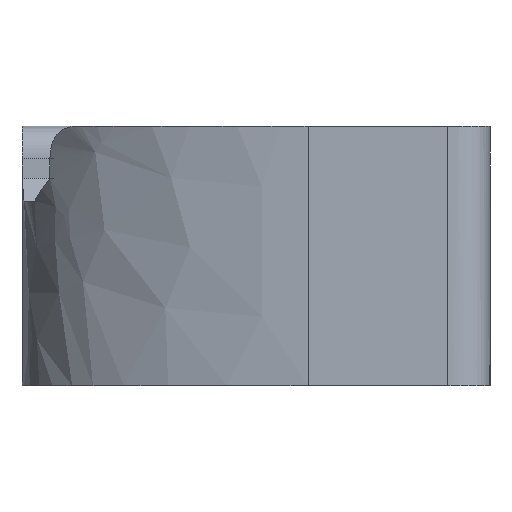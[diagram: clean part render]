
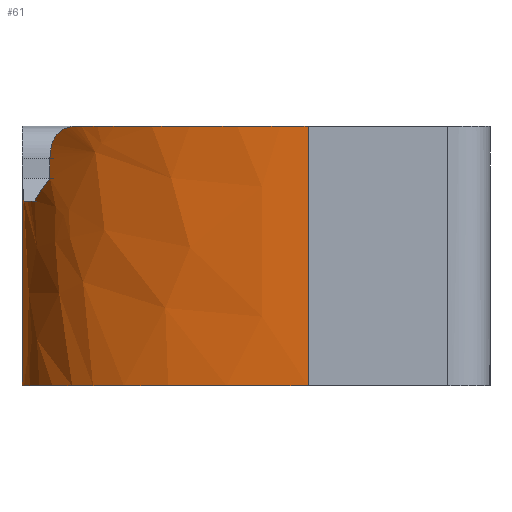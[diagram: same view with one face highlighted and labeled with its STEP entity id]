
A CAD part, left-side view. The second image highlights one B-rep face of the part: STEP entity #61.
In plain terms, the highlighted free-form (B-spline) face has degree [3, 1] with [4, 2] control points.
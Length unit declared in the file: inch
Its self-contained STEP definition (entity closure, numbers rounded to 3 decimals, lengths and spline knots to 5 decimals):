
#61=ADVANCED_FACE('',(#148),#149,.F.);
#148=FACE_OUTER_BOUND('',#260,.T.);
#149=B_SPLINE_SURFACE_WITH_KNOTS('',3,1,((#261,#262),(#263,#264),(#265,#266),(#267,#268)),.UNSPECIFIED.,.F.,.F.,.F.,(4,4),(2,2),(-1.0,-0.0),(0.0,0.73106),.UNSPECIFIED.);
#260=EDGE_LOOP('',(#755,#756,#757,#758,#759,#760,#761,#762,#763));
#261=CARTESIAN_POINT('',(0.17794,0.56242,0.3519));
#262=CARTESIAN_POINT('',(0.17794,0.56242,-0.37916));
#263=CARTESIAN_POINT('',(-0.02242,0.56242,0.3519));
#264=CARTESIAN_POINT('',(-0.02242,0.56242,-0.37916));
#265=CARTESIAN_POINT('',(-0.04635,0.27241,0.3519));
#266=CARTESIAN_POINT('',(-0.04635,0.27241,-0.37916));
#267=CARTESIAN_POINT('',(-0.04635,0.21857,0.3519));
#268=CARTESIAN_POINT('',(-0.04635,0.21857,-0.37916));
#755=ORIENTED_EDGE('',*,*,#1025,.F.);
#756=ORIENTED_EDGE('',*,*,#1026,.F.);
#757=ORIENTED_EDGE('',*,*,#1027,.F.);
#758=ORIENTED_EDGE('',*,*,#1028,.F.);
#759=ORIENTED_EDGE('',*,*,#1029,.F.);
#760=ORIENTED_EDGE('',*,*,#1030,.F.);
#761=ORIENTED_EDGE('',*,*,#1031,.T.);
#762=ORIENTED_EDGE('',*,*,#1032,.F.);
#763=ORIENTED_EDGE('',*,*,#1033,.F.);
#1025=EDGE_CURVE('',#1156,#1157,#1158,.T.);
#1026=EDGE_CURVE('',#1159,#1156,#1160,.T.);
#1027=EDGE_CURVE('',#1161,#1159,#1162,.T.);
#1028=EDGE_CURVE('',#1163,#1161,#1164,.T.);
#1029=EDGE_CURVE('',#1165,#1163,#1166,.T.);
#1030=EDGE_CURVE('',#1167,#1165,#1168,.T.);
#1031=EDGE_CURVE('',#1167,#1169,#1170,.T.);
#1032=EDGE_CURVE('',#1171,#1169,#1172,.T.);
#1033=EDGE_CURVE('',#1157,#1171,#1173,.T.);
#1156=VERTEX_POINT('',#1347);
#1157=VERTEX_POINT('',#1348);
#1158=B_SPLINE_CURVE_WITH_KNOTS('',3,(#1349,#1350,#1351,#1352,#1353,#1354,#1355,#1356),.UNSPECIFIED.,.F.,.F.,(4,2,2,4),(0.0,0.06653,0.15885,0.41538),.UNSPECIFIED.);
#1159=VERTEX_POINT('',#1357);
#1160=B_SPLINE_CURVE_WITH_KNOTS('',3,(#1358,#1359,#1360,#1361,#1362,#1363,#1364,#1365,#1366,#1367,#1368,#1369),.UNSPECIFIED.,.F.,.F.,(4,2,2,2,2,4),(0.0,0.01171,0.02331,0.03665,0.0504,0.07204),.UNSPECIFIED.);
#1161=VERTEX_POINT('',#1370);
#1162=B_SPLINE_CURVE_WITH_KNOTS('',3,(#1371,#1372,#1373,#1374),.UNSPECIFIED.,.F.,.F.,(4,4),(0.0,0.12322),.UNSPECIFIED.);
#1163=VERTEX_POINT('',#1375);
#1164=B_SPLINE_CURVE_WITH_KNOTS('',3,(#1376,#1377,#1378,#1379,#1380,#1381),.UNSPECIFIED.,.F.,.F.,(4,2,4),(0.0,0.08248,0.16033),.UNSPECIFIED.);
#1165=VERTEX_POINT('',#1382);
#1166=B_SPLINE_CURVE_WITH_KNOTS('',3,(#1383,#1384,#1385,#1386,#1387,#1388),.UNSPECIFIED.,.F.,.F.,(4,2,4),(0.0,0.07132,0.13771),.UNSPECIFIED.);
#1167=VERTEX_POINT('',#1389);
#1168=B_SPLINE_CURVE_WITH_KNOTS('',3,(#1390,#1391,#1392,#1393),.UNSPECIFIED.,.F.,.F.,(4,4),(0.0,0.09275),.UNSPECIFIED.);
#1169=VERTEX_POINT('',#1394);
#1170=LINE('',#1395,#1396);
#1171=VERTEX_POINT('',#1397);
#1172=B_SPLINE_CURVE_WITH_KNOTS('',3,(#1398,#1399,#1400,#1401),.UNSPECIFIED.,.F.,.F.,(4,4),(0.0,1.0),.UNSPECIFIED.);
#1173=LINE('',#1402,#1403);
#1347=CARTESIAN_POINT('',(0.03531,0.49122,0.31231));
#1348=CARTESIAN_POINT('',(-0.04635,0.21857,0.31231));
#1349=CARTESIAN_POINT('',(0.08531,0.53687,0.31231));
#1350=CARTESIAN_POINT('',(0.06648,0.52514,0.31231));
#1351=CARTESIAN_POINT('',(0.05032,0.50998,0.31231));
#1352=CARTESIAN_POINT('',(0.01722,0.46865,0.31231));
#1353=CARTESIAN_POINT('',(0.00247,0.44056,0.31231));
#1354=CARTESIAN_POINT('',(-0.04028,0.33241,0.31231));
#1355=CARTESIAN_POINT('',(-0.04635,0.24574,0.31231));
#1356=CARTESIAN_POINT('',(-0.04635,0.21857,0.31231));
#1357=CARTESIAN_POINT('',(0.07353,0.52884,0.27287));
#1358=CARTESIAN_POINT('',(0.07353,0.52884,0.27287));
#1359=CARTESIAN_POINT('',(0.07353,0.52884,0.27677));
#1360=CARTESIAN_POINT('',(0.0731,0.52853,0.28078));
#1361=CARTESIAN_POINT('',(0.07138,0.52722,0.2883));
#1362=CARTESIAN_POINT('',(0.07009,0.52624,0.29185));
#1363=CARTESIAN_POINT('',(0.06634,0.52324,0.29872));
#1364=CARTESIAN_POINT('',(0.06385,0.52118,0.30173));
#1365=CARTESIAN_POINT('',(0.05809,0.51606,0.30662));
#1366=CARTESIAN_POINT('',(0.05493,0.51309,0.30834));
#1367=CARTESIAN_POINT('',(0.04683,0.50491,0.31146));
#1368=CARTESIAN_POINT('',(0.04128,0.4988,0.31231));
#1369=CARTESIAN_POINT('',(0.03531,0.49122,0.31231));
#1370=CARTESIAN_POINT('',(0.07353,0.52884,0.24965));
#1371=CARTESIAN_POINT('',(0.07353,0.52884,0.19965));
#1372=CARTESIAN_POINT('',(0.07353,0.52884,0.24072));
#1373=CARTESIAN_POINT('',(0.07353,0.52884,0.28179));
#1374=CARTESIAN_POINT('',(0.07353,0.52884,0.32287));
#1375=CARTESIAN_POINT('',(0.10478,0.54728,0.22225));
#1376=CARTESIAN_POINT('',(0.14237,0.55914,0.18929));
#1377=CARTESIAN_POINT('',(0.12191,0.55523,0.20723));
#1378=CARTESIAN_POINT('',(0.10217,0.54767,0.22454));
#1379=CARTESIAN_POINT('',(0.06596,0.52451,0.25628));
#1380=CARTESIAN_POINT('',(0.0501,0.50983,0.27019));
#1381=CARTESIAN_POINT('',(0.03593,0.49201,0.28261));
#1382=CARTESIAN_POINT('',(0.14687,0.55994,0.22225));
#1383=CARTESIAN_POINT('',(0.17794,0.56242,0.22225));
#1384=CARTESIAN_POINT('',(0.15417,0.56242,0.22225));
#1385=CARTESIAN_POINT('',(0.13105,0.55834,0.22225));
#1386=CARTESIAN_POINT('',(0.08871,0.54064,0.22225));
#1387=CARTESIAN_POINT('',(0.07067,0.52827,0.22225));
#1388=CARTESIAN_POINT('',(0.05478,0.51287,0.22225));
#1389=CARTESIAN_POINT('',(0.17794,0.56242,0.24912));
#1390=CARTESIAN_POINT('',(0.17794,0.56242,0.24912));
#1391=CARTESIAN_POINT('',(0.15455,0.56242,0.2289));
#1392=CARTESIAN_POINT('',(0.13133,0.55847,0.20882));
#1393=CARTESIAN_POINT('',(0.10904,0.54914,0.18955));
#1394=CARTESIAN_POINT('',(0.17794,0.56242,0.0));
#1395=CARTESIAN_POINT('',(0.17794,0.56242,0.3519));
#1396=VECTOR('',#1802,1.0);
#1397=CARTESIAN_POINT('',(-0.04635,0.21857,0.0));
#1398=CARTESIAN_POINT('',(-0.04635,0.21857,0.0));
#1399=CARTESIAN_POINT('',(-0.04635,0.27241,0.0));
#1400=CARTESIAN_POINT('',(-0.02242,0.56242,0.));
#1401=CARTESIAN_POINT('',(0.17794,0.56242,0.));
#1402=CARTESIAN_POINT('',(-0.04635,0.21857,0.3519));
#1403=VECTOR('',#1803,1.0);
#1802=DIRECTION('',(0.0,0.0,-1.0));
#1803=DIRECTION('',(0.0,0.0,-1.0));
